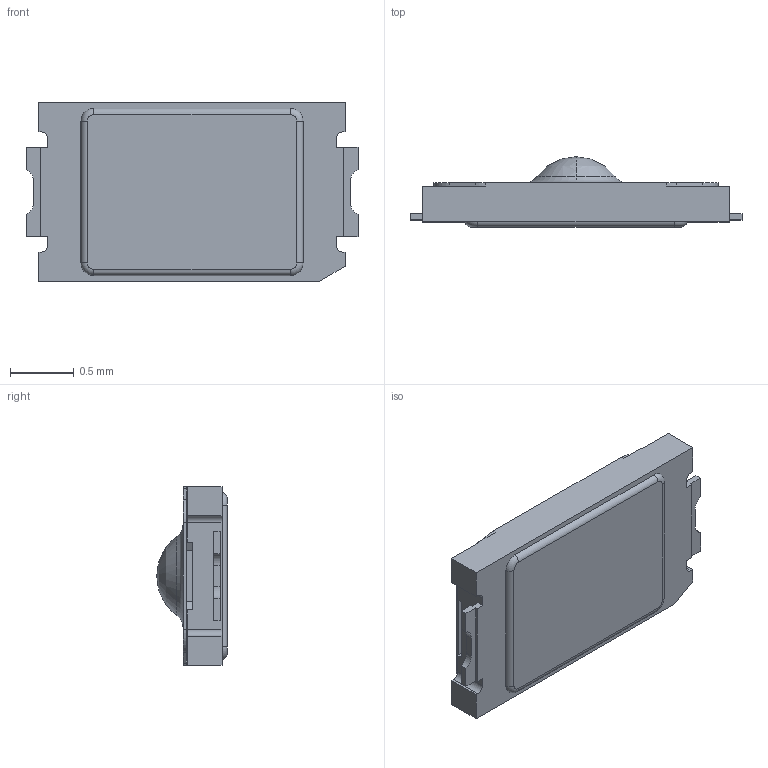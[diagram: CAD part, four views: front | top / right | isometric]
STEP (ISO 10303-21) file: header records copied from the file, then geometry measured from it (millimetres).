
FILE_DESCRIPTION (( 'STEP AP214' ), '1' );
FILE_NAME ('SKUBAB.STEP', '2025-12-22T08:55:44', ( '' ), ( '' ), 'SwSTEP 2.0', 'SolidWorks 2025', '' );
FILE_SCHEMA (( 'AUTOMOTIVE_DESIGN' ));
Length unit declared in the file: millimetre
Products named in the file (1): SKUBAB
Bounding box: 2.6 x 0.55 x 1.4 mm (x, y, z)
Volume: 1.1 mm3; surface area: 10.6 mm2
Topology: 1 solids, 1 shells, 97 faces, 269 edges, 176 vertices
Faces by surface type: plane 69, cylinder 20, torus 8
Entity records: 3896 total; most frequent: CARTESIAN_POINT 543, ORIENTED_EDGE 538, DIRECTION 523, EDGE_CURVE 269, LINE 211, VECTOR 211, VERTEX_POINT 176, AXIS2_PLACEMENT_3D 156
